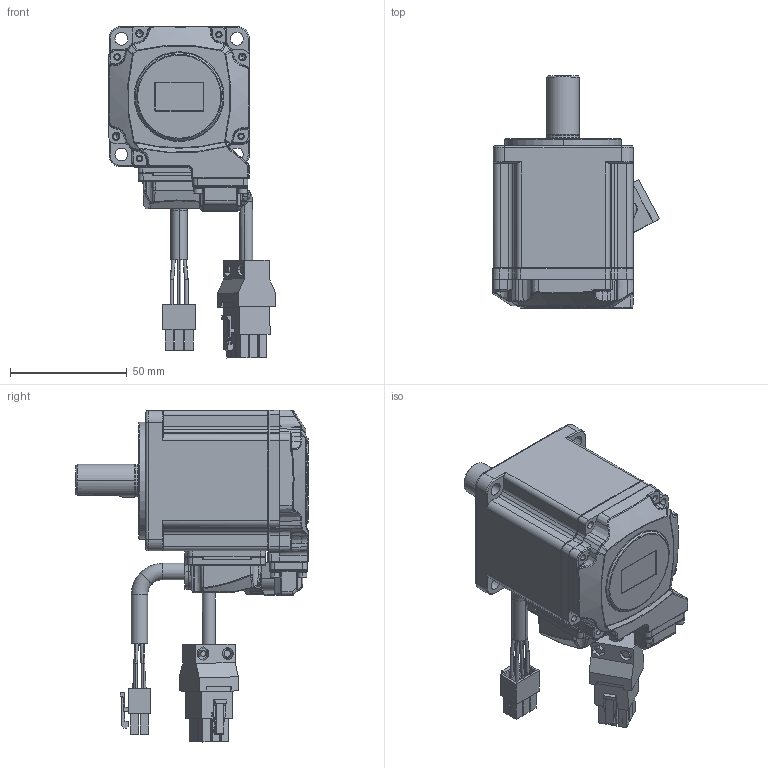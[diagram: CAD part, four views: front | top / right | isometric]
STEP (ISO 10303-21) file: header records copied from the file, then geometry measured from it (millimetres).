
FILE_DESCRIPTION((''),'2;1');
FILE_NAME('ECM-B3H-C20602RS1_V02_SW0002','2022-08-17T15:11:17',('KUAN.WEI.SHIH'),(''),'CREO PARAMETRIC BY PTC INC, 2020454','CREO PARAMETRIC BY PTC INC, 2020454','');
FILE_SCHEMA(('CONFIG_CONTROL_DESIGN'));
Products named in the file (1): ECM-B3H-C20602RS1_V02_SW0002
Bounding box: 71.52 x 99.6 x 142.14 mm (x, y, z)
Volume: 251197.6 mm3; surface area: 54221.3 mm2
Topology: 2 solids, 16 shells, 2429 faces, 6066 edges, 3730 vertices
Faces by surface type: plane 969, cylinder 524, bspline 435, cone 276, torus 210, sphere 15
Entity records: 98430 total; most frequent: CARTESIAN_POINT 44150, ORIENTED_EDGE 12070, DIRECTION 10178, EDGE_CURVE 6035, VERTEX_POINT 3730, AXIS2_PLACEMENT_3D 3652, VECTOR 2874, LINE 2874
